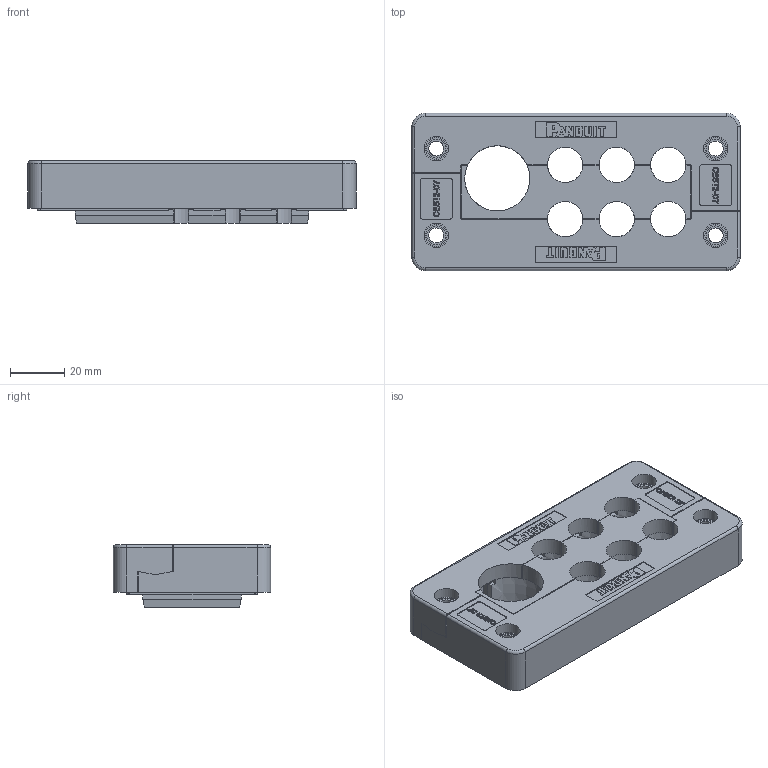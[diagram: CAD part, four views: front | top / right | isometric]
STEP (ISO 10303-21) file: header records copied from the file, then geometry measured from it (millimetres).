
FILE_DESCRIPTION(/* description */ (''),/* implementation_level */ '2;1');
FILE_NAME(/* name */ 'H:\SapWorkDir\Inventor\MP1\ConvertTempPath\87_11_121460_00_A_220620_KDL-D 16-7 ZSB.stp',/* time_stamp */ '2022-06-20T09:52:00+02:00',/* author */ ('BAUER'),/* organization */ (''),/* preprocessor_version */ 'ST-DEVELOPER v16.13',/* originating_system */ 'Autodesk Inventor 2018',/* authorisation */ '');
FILE_SCHEMA (('AUTOMOTIVE_DESIGN { 1 0 10303 214 3 1 1 }'));
Length unit declared in the file: millimetre
Products named in the file (5): 121460; KDB-16; 121405; 121406; KDL-D 16 1-4 Mittelteil
Assembly tree (4 placements, depth 2):
  121460
    KDB-16
    121405
    121406
    KDL-D 16 1-4 Mittelteil
Bounding box: 121 x 58 x 23 mm (x, y, z)
Volume: 90832 mm3; surface area: 51161.9 mm2
Topology: 4 solids, 4 shells, 1388 faces, 3744 edges, 2462 vertices
Faces by surface type: plane 856, bspline 236, cylinder 229, cone 41, torus 20, sphere 6
Full cylindrical faces by diameter (mm): 5 x6, 5.5 x10, 6 x2, 7 x4, 8 x4, 9 x4
Entity records: 45643 total; most frequent: CARTESIAN_POINT 11680, ORIENTED_EDGE 7398, DIRECTION 6299, EDGE_CURVE 3699, LINE 2503, VECTOR 2503, VERTEX_POINT 2456, AXIS2_PLACEMENT_3D 1898
